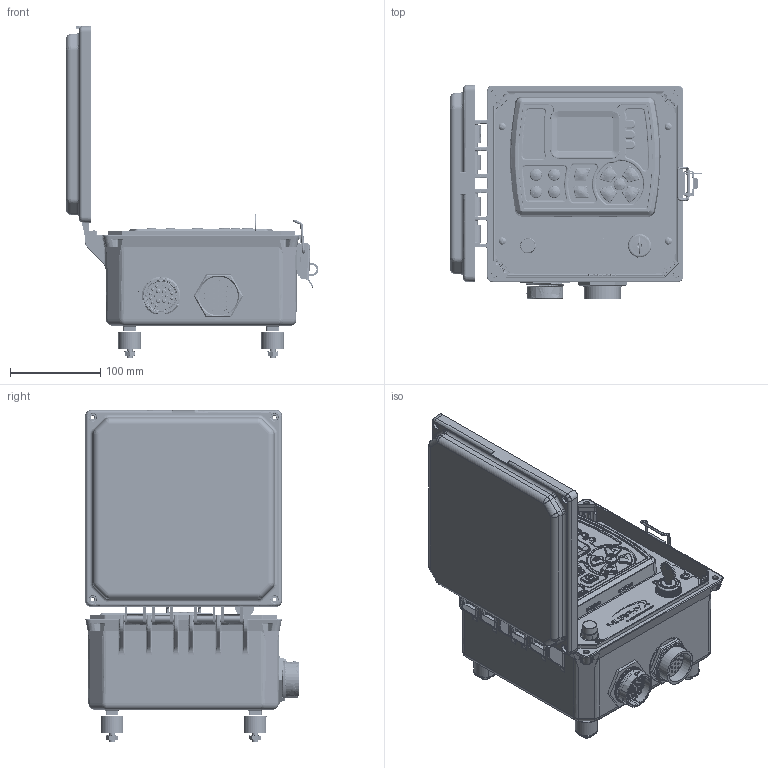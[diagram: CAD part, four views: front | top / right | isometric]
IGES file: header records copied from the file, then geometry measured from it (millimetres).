
Start section: SolidWorks IGES file using analytic representation for surfaces
Global section: file name: K:\CUSTOMER STEP FILES\ML1000-4X.IGS; native system: SolidWorks 2012; preprocessor: SolidWorks 2012; author: bprill; date: 150910.101956; units: inch
Bounding box: 280.31 x 236.95 x 368.3 mm (x, y, z)
Surface area: 477687.3 mm2 (no closed solid volume)
Topology: 0 solids, 0 shells, 2405 faces, 31937 edges, 31930 vertices
Faces by surface type: bspline 1397, revolution 1008
